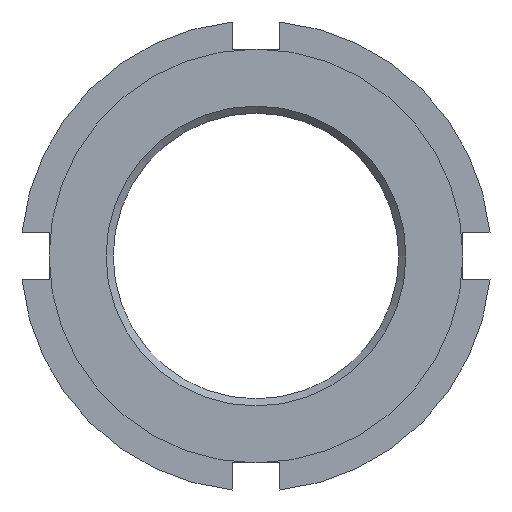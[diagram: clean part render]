
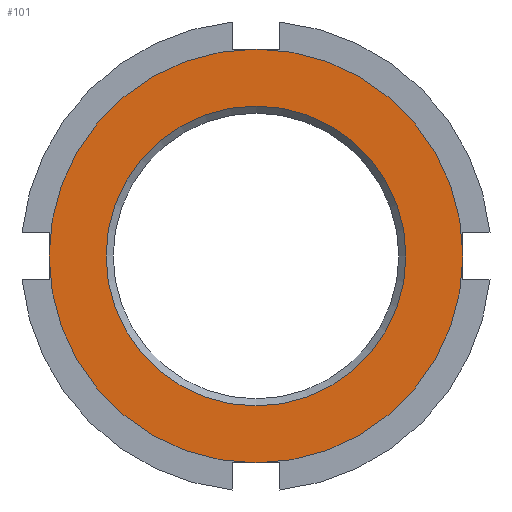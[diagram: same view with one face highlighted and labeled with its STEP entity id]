
A CAD part, left-side view. The second image highlights one B-rep face of the part: STEP entity #101.
In plain terms, the highlighted planar face has unit normal (-1, 0, 0).
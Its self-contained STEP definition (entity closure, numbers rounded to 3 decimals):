
#101 = ADVANCED_FACE( '', ( #169, #170 ), #171, .F. );
#169 = FACE_OUTER_BOUND( '', #247, .T. );
#170 = FACE_BOUND( '', #248, .T. );
#171 = PLANE( '', #249 );
#247 = EDGE_LOOP( '', ( #462 ) );
#248 = EDGE_LOOP( '', ( #463 ) );
#249 = AXIS2_PLACEMENT_3D( '', #464, #465, #466 );
#462 = ORIENTED_EDGE( '', *, *, #571, .F. );
#463 = ORIENTED_EDGE( '', *, *, #550, .T. );
#464 = CARTESIAN_POINT( '', ( 0., 0., 0. ) );
#465 = DIRECTION( '', ( 1., 0., 0. ) );
#466 = DIRECTION( '', ( 0., 0., -1. ) );
#550 = EDGE_CURVE( '', #656, #656, #657, .T. );
#571 = EDGE_CURVE( '', #685, #685, #686, .T. );
#656 = VERTEX_POINT( '', #841 );
#657 = CIRCLE( '', #842, 15.938 );
#685 = VERTEX_POINT( '', #884 );
#686 = CIRCLE( '', #885, 22. );
#841 = CARTESIAN_POINT( '', ( 0., 0., -15.938 ) );
#842 = AXIS2_PLACEMENT_3D( '', #971, #972, #973 );
#884 = CARTESIAN_POINT( '', ( 0., 0., -22. ) );
#885 = AXIS2_PLACEMENT_3D( '', #1018, #1019, #1020 );
#971 = CARTESIAN_POINT( '', ( 0., 0., 0. ) );
#972 = DIRECTION( '', ( 1., 0., 0. ) );
#973 = DIRECTION( '', ( 0., 0., -1. ) );
#1018 = CARTESIAN_POINT( '', ( 0., 0., 0. ) );
#1019 = DIRECTION( '', ( 1., 0., 0. ) );
#1020 = DIRECTION( '', ( 0., 0., -1. ) );
